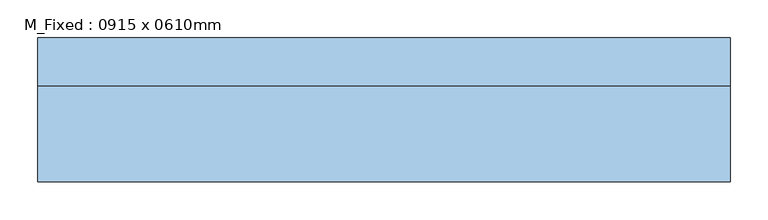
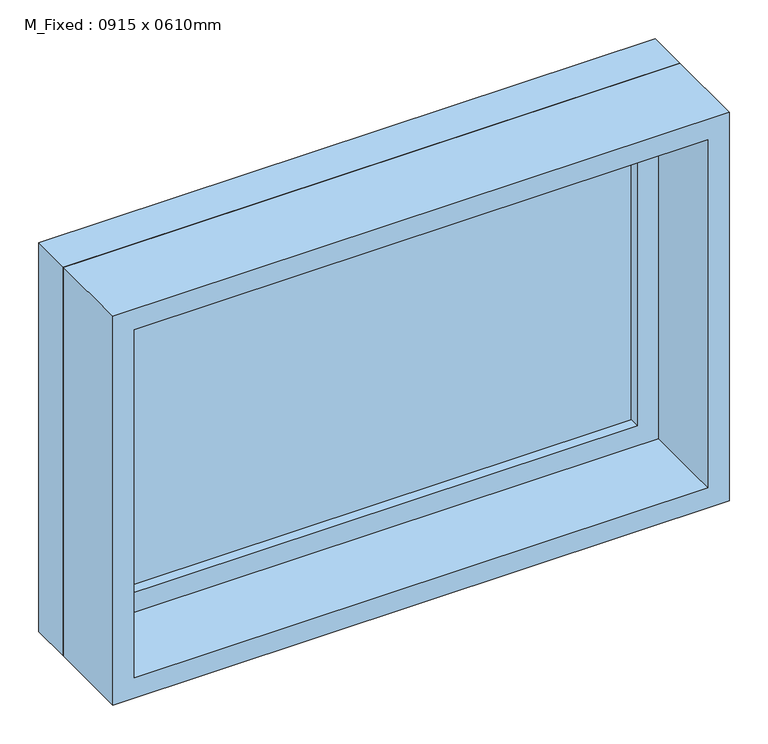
"""IFC4 building model written with IfcOpenShell, lengths in millimetres: window geometry, M_Fixed : 0915 x 0610mm."""

import ifcopenshell
import ifcopenshell.guid

model = None  # the IFC model being written
_history = None  # IfcOwnerHistory: only IFC2X3 demands one
_inside = {}  # id of a spatial element -> (the spatial element, [elements in it])
_under = {}  # id of a project, library or spatial element -> (it, [spatial elements below it])
_declared = {}  # id of a project -> (the project, [libraries it declares])
_typed = {}  # id of a type object -> (the type object, [elements of that type])
_made_of = {}  # id of a material, layer set ... -> (it, [elements and type objects made of it])


def new_model(schema):
    """Start an empty IFC model of exactly this schema.

    Asked for "IFC4X3", IfcOpenShell would pick the latest addendum, in which some entities
    have other attributes; the version numbers below select the first issue.
    IFC2X3 requires an IfcOwnerHistory on every rooted entity: one is made here for all.
    """
    global model, _history
    if schema == "IFC4X3":
        model = ifcopenshell.file(schema_version=(4, 3, 0, 0))
    else:
        model = ifcopenshell.file(schema=schema)
    _inside.clear()
    _under.clear()
    _declared.clear()
    _typed.clear()
    _made_of.clear()
    _history = None
    if model.schema == "IFC2X3":
        org = make("IfcOrganization", Name="unknown")
        user = make(
            "IfcPersonAndOrganization",
            ThePerson=make("IfcPerson", FamilyName="unknown"),
            TheOrganization=org,
        )
        app = make(
            "IfcApplication",
            ApplicationDeveloper=org,
            Version="unknown",
            ApplicationFullName="unknown",
            ApplicationIdentifier="unknown",
        )
        _history = make(
            "IfcOwnerHistory",
            OwningUser=user,
            OwningApplication=app,
            ChangeAction="ADDED",
            CreationDate=0,
        )
    return model


def make(cls, **values):
    """One entity of the class cls with the attributes given. An attribute that is None is left unset."""
    return model.create_entity(
        cls, **{name: value for name, value in values.items() if value is not None}
    )


def rooted(cls, **values):
    """An entity with a GlobalId (a new one), such as an element, a storey or a relation."""
    return make(cls, GlobalId=ifcopenshell.guid.new(), OwnerHistory=_history, **values)


def si_unit(unit_type, name, prefix=None):
    """IfcSIUnit, for example si_unit("LENGTHUNIT", "METRE", prefix="MILLI")."""
    return make("IfcSIUnit", UnitType=unit_type, Prefix=prefix, Name=name)


def assignment(units):
    """IfcUnitAssignment: the units of a project."""
    return None if units is None else make("IfcUnitAssignment", Units=units)


def point(xyz):
    """IfcCartesianPoint."""
    return None if xyz is None else make("IfcCartesianPoint", Coordinates=xyz)


def direction(xyz):
    """IfcDirection."""
    return None if xyz is None else make("IfcDirection", DirectionRatios=xyz)


def frame(location, z_axis=None, x_axis=None):
    """IfcAxis2Placement3D, a coordinate frame: its origin and axes. An axis left out is left unset."""
    return make(
        "IfcAxis2Placement3D",
        Location=point(location),
        Axis=direction(z_axis),
        RefDirection=direction(x_axis),
    )


def origin():
    """The frame at (0, 0, 0) with its axes left unset."""
    return frame((0.0, 0.0, 0.0))


def place(relative_to, where):
    """IfcLocalPlacement: puts the frame where relative to a parent placement (None: the world)."""
    return make(
        "IfcLocalPlacement", PlacementRelTo=relative_to, RelativePlacement=where
    )


def context(
    kind, dimensions, precision=None, world=None, true_north=None, identifier=None
):
    """IfcGeometricRepresentationContext, for example the 3D "Model" context."""
    return make(
        "IfcGeometricRepresentationContext",
        ContextIdentifier=identifier,
        ContextType=kind,
        CoordinateSpaceDimension=dimensions,
        Precision=precision,
        WorldCoordinateSystem=world,
        TrueNorth=true_north,
    )


def project(units=None, contexts=None):
    """IfcProject with its units and contexts."""
    return rooted(
        "IfcProject",
        Name="project",
        RepresentationContexts=contexts,
        UnitsInContext=assignment(units),
    )


def spatial(cls, under=None, at=None, **own):
    """A site, building, storey or space (cls), placed at a placement, below another one or the project."""
    s = rooted(cls, ObjectPlacement=at, **own)
    if under is not None:
        _under.setdefault(under.id(), (under, []))[1].append(s)
    return s


def polyline(points):
    """IfcPolyline through the points."""
    return make("IfcPolyline", Points=[point(p) for p in points])


def outline(outer, holes=None, kind="AREA"):
    """IfcArbitraryClosedProfileDef: a profile drawn as a closed curve; with holes, ...WithVoids."""
    if holes is None:
        return make("IfcArbitraryClosedProfileDef", ProfileType=kind, OuterCurve=outer)
    return make(
        "IfcArbitraryProfileDefWithVoids",
        ProfileType=kind,
        OuterCurve=outer,
        InnerCurves=holes,
    )


def extrude(swept, where, along, depth):
    """IfcExtrudedAreaSolid: the profile swept, set in the frame where, extruded along a direction by depth."""
    return make(
        "IfcExtrudedAreaSolid",
        SweptArea=swept,
        Position=where,
        ExtrudedDirection=direction(along),
        Depth=depth,
    )


def shape(context_of_items, identifier, shape_type, items):
    """IfcShapeRepresentation: the items that make up one representation, for example the "Body"."""
    return make(
        "IfcShapeRepresentation",
        ContextOfItems=context_of_items,
        RepresentationIdentifier=identifier,
        RepresentationType=shape_type,
        Items=items,
    )


def source(mapping_origin, context_of_items, identifier, shape_type, items):
    """IfcRepresentationMap: a shape defined once, which mapped items show again and again."""
    return make(
        "IfcRepresentationMap",
        MappingOrigin=mapping_origin,
        MappedRepresentation=shape(context_of_items, identifier, shape_type, items),
    )


def transform(
    local_origin,
    x_axis=None,
    y_axis=None,
    z_axis=None,
    scale=None,
    scale2=None,
    scale3=None,
    uniform=True,
):
    """IfcCartesianTransformationOperator3D, or its non-uniform kind. x_axis, y_axis, z_axis: its Axis1, 2, 3."""
    if uniform:
        return make(
            "IfcCartesianTransformationOperator3D",
            Axis1=direction(x_axis),
            Axis2=direction(y_axis),
            LocalOrigin=point(local_origin),
            Scale=scale,
            Axis3=direction(z_axis),
        )
    return make(
        "IfcCartesianTransformationOperator3DnonUniform",
        Axis1=direction(x_axis),
        Axis2=direction(y_axis),
        LocalOrigin=point(local_origin),
        Scale=scale,
        Axis3=direction(z_axis),
        Scale2=scale2,
        Scale3=scale3,
    )


def mapped(mapping_source, mapping_target):
    """IfcMappedItem: shows the shape of a source again, moved by a transform."""
    return make(
        "IfcMappedItem", MappingSource=mapping_source, MappingTarget=mapping_target
    )


def made_of(thing, what):
    """Note that an element or type object is made of a material, layer set ...; save() writes the relation."""
    if what is not None:
        _made_of.setdefault(what.id(), (what, []))[1].append(thing)
    return thing


def element(
    cls,
    number,
    at=None,
    inside=None,
    cuts=None,
    type_object=None,
    material=None,
    context=None,
    identifier="Body",
    shape_type=None,
    held_by="IfcProductDefinitionShape",
    body=None,
    shapes=None,
    **own,
):
    """One element of the class cls, such as IfcWall. Its Tag is "e" and its number.

    at: its placement. inside: the storey or other place that contains it. cuts: it is an
    opening in that element (IfcRelVoidsElement). A single representation is given by context,
    identifier, shape_type and body (its items); several are given by shapes. held_by: the class
    of the entity that holds the representations. save() writes the other relations.
    """
    e = rooted(cls, Tag="e%d" % number, ObjectPlacement=at, **own)
    if body is not None:
        shapes = [shape(context, identifier, shape_type, body)]
    if shapes is not None:
        e.Representation = make(held_by, Representations=shapes)
    if inside is not None:
        _inside.setdefault(inside.id(), (inside, []))[1].append(e)
    if cuts is not None:
        rooted(
            "IfcRelVoidsElement", RelatingBuildingElement=cuts, RelatedOpeningElement=e
        )
    if type_object is not None:
        _typed.setdefault(type_object.id(), (type_object, []))[1].append(e)
    return made_of(e, material)


def aggregate(whole, parts):
    """IfcRelAggregates: a whole, such as a stair, and the parts it consists of."""
    return rooted("IfcRelAggregates", RelatingObject=whole, RelatedObjects=parts)


def save(model, path):
    """Write the relations noted so far, then the file.

    IfcRelAggregates (storeys below a building ...), IfcRelContainedInSpatialStructure (elements
    in a storey), IfcRelDefinesByType, IfcRelAssociatesMaterial and IfcRelDeclares: one each for
    every whole, place, type object, material and project.
    """
    for whole, parts in _under.values():
        aggregate(whole, parts)
    for where, things in _inside.values():
        rooted(
            "IfcRelContainedInSpatialStructure",
            RelatedElements=things,
            RelatingStructure=where,
        )
    for kind, things in _typed.values():
        rooted("IfcRelDefinesByType", RelatedObjects=things, RelatingType=kind)
    for what, things in _made_of.values():
        rooted("IfcRelAssociatesMaterial", RelatedObjects=things, RelatingMaterial=what)
    for by, libraries in _declared.values():
        rooted("IfcRelDeclares", RelatingContext=by, RelatedDefinitions=libraries)
    model.write(path)


def m_fixed_0915_x_0610mm_e83bb20a(model_context):
    return source(origin(), model_context, "Body", "SweptSolid", [
        extrude(outline(polyline([(-394.5, 73.0), (394.5, 73.0), (394.5, 61.0), (-394.5, 61.0), (-394.5, 73.0)])), frame((0.0, 0.0, 978.0), z_axis=(0.0, 0.0, 1.0), x_axis=(1.0, 0.0, 0.0)), (0.0, 0.0, 1.0), 484.0),
        extrude(outline(polyline([(1506.0, -438.5), (934.0, -438.5), (934.0, 438.5), (1506.0, 438.5), (1506.0, -438.5)]), holes=[polyline([(1462.0, -394.5), (1462.0, 394.5), (978.0, 394.5), (978.0, -394.5), (1462.0, -394.5)])]), frame((0.0, 45.0, 0.0), z_axis=(0.0, 1.0, 0.0), x_axis=(0.0, 0.0, 1.0)), (0.0, 0.0, 1.0), 44.0),
        extrude(outline(polyline([(1525.0, -457.5), (915.0, -457.5), (915.0, 457.5), (1525.0, 457.5), (1525.0, -457.5)]), holes=[polyline([(1506.0, -438.5), (1506.0, 438.5), (934.0, 438.5), (934.0, -438.5), (1506.0, -438.5)])]), frame((0.0, 45.0, 0.0), z_axis=(0.0, 1.0, 0.0), x_axis=(0.0, 0.0, 1.0)), (0.0, 0.0, 1.0), 63.0),
        extrude(outline(polyline([(1525.0, -457.5), (915.0, -457.5), (915.0, 457.5), (1525.0, 457.5), (1525.0, -457.5)]), holes=[polyline([(1493.0, -425.5), (1493.0, 425.5), (947.0, 425.5), (947.0, -425.5), (1493.0, -425.5)])]), frame((0.0, -82.0, 0.0), z_axis=(0.0, 1.0, 0.0), x_axis=(0.0, 0.0, 1.0)), (0.0, 0.0, 1.0), 127.0),
    ])


if __name__ == "__main__":
    model = new_model("IFC4")
    model_context = context("Model", 3, world=origin())
    ifc_project = project(units=[si_unit("LENGTHUNIT", "METRE", prefix="MILLI")], contexts=[model_context])
    site = spatial("IfcSite", under=ifc_project)
    building = spatial("IfcBuilding", under=site)
    placement = place(None, origin())
    m_fixed_0915_x_0610mm_shape = m_fixed_0915_x_0610mm_e83bb20a(model_context)
    element("IfcWindow", 1, ObjectType="M_Fixed : 0915 x 0610mm", at=placement, inside=building, context=model_context, shape_type="MappedRepresentation", body=[
        mapped(m_fixed_0915_x_0610mm_shape, transform((0.0, 0.0, 0.0), x_axis=(1.0, 0.0, 0.0), y_axis=(0.0, 1.0, 0.0), z_axis=(0.0, 0.0, 1.0))),
    ])
    save(model, "model.ifc")
